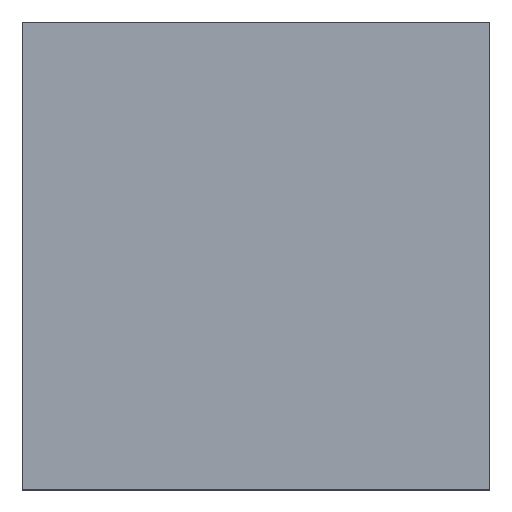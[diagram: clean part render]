
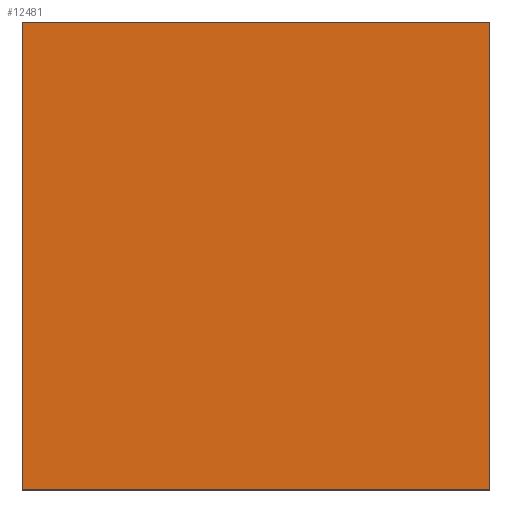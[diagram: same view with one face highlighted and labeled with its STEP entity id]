
A CAD part, top view. The second image highlights one B-rep face of the part: STEP entity #12481.
In plain terms, the highlighted planar face has unit normal (0, 0, 1).
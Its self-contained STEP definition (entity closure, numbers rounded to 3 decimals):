
#12442=CARTESIAN_POINT('',(0.,0.,20.));
#12443=DIRECTION('',(1.,0.,0.));
#12444=DIRECTION('',(0.,0.,1.));
#12445=AXIS2_PLACEMENT_3D('',#12442,#12444,#12443);
#12446=PLANE('',#12445);
#12447=CARTESIAN_POINT('',(548.5,-548.5,20.));
#12448=VERTEX_POINT('',#12447);
#12449=CARTESIAN_POINT('',(548.5,548.5,20.));
#12450=VERTEX_POINT('',#12449);
#12451=CARTESIAN_POINT('',(548.5,-548.5,20.));
#12452=DIRECTION('',(0.,1.,0.));
#12453=VECTOR('',#12452,1097.);
#12454=LINE('',#12451,#12453);
#12455=EDGE_CURVE('',#12448,#12450,#12454,.T.);
#12456=ORIENTED_EDGE('E117',*,*,#12455,.T.);
#12457=CARTESIAN_POINT('',(-548.5,548.5,20.));
#12458=VERTEX_POINT('',#12457);
#12459=CARTESIAN_POINT('',(548.5,548.5,20.));
#12460=DIRECTION('',(-1.,0.,0.));
#12461=VECTOR('',#12460,1097.);
#12462=LINE('',#12459,#12461);
#12463=EDGE_CURVE('',#12450,#12458,#12462,.T.);
#12464=ORIENTED_EDGE('E118',*,*,#12463,.T.);
#12465=CARTESIAN_POINT('',(-548.5,-548.5,20.));
#12466=VERTEX_POINT('',#12465);
#12467=CARTESIAN_POINT('',(-548.5,548.5,20.));
#12468=DIRECTION('',(0.,-1.,0.));
#12469=VECTOR('',#12468,1097.);
#12470=LINE('',#12467,#12469);
#12471=EDGE_CURVE('',#12458,#12466,#12470,.T.);
#12472=ORIENTED_EDGE('E120',*,*,#12471,.T.);
#12473=CARTESIAN_POINT('',(-548.5,-548.5,20.));
#12474=DIRECTION('',(1.,0.,0.));
#12475=VECTOR('',#12474,1097.);
#12476=LINE('',#12473,#12475);
#12477=EDGE_CURVE('',#12466,#12448,#12476,.T.);
#12478=ORIENTED_EDGE('E116',*,*,#12477,.T.);
#12479=EDGE_LOOP('',(#12456,#12464,#12472,#12478));
#12480=FACE_OUTER_BOUND('',#12479,.T.);
#12481=ADVANCED_FACE('F2',(#12480),#12446,.T.);
